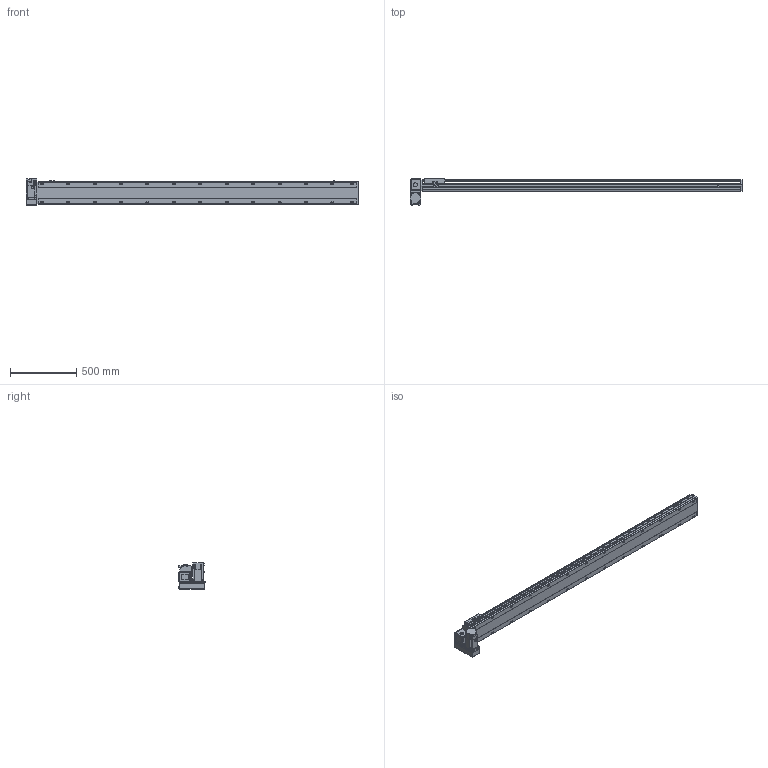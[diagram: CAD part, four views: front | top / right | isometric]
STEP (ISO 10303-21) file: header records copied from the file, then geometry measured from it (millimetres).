
FILE_DESCRIPTION(/* description */ ('STEP AP214'),/* implementation_level */ '2;1');
FILE_NAME(/* name */ 'PBS170-P40-S2150-LD-T75-C1-N(0)',/* time_stamp */ '2022-06-07T09:55:01+02:00',/* author */ ('License CC BY-ND 4.0'),/* organization */ ('CADENAS'),/* preprocessor_version */ 'ST-DEVELOPER v18.102',/* originating_system */ 'PARTsolutions',/* authorisation */ ' ');
FILE_SCHEMA (('AUTOMOTIVE_DESIGN {1 0 10303 214 3 1 1}'));
Length unit declared in the file: millimetre
Products named in the file (7): PBS170-P40-S2150-LD-T75-C1-N(0); PBS170_sensor; PBS170_plant; PBS170_sliser; T75-p1; PBS170T-LD_motors; PBS170-S2150()_body
Assembly tree (8 placements, depth 2):
  PBS170-P40-S2150-LD-T75-C1-N(0)
    PBS170_sensor  x3
    PBS170_plant
    PBS170_sliser
    T75-p1
    PBS170T-LD_motors
    PBS170-S2150()_body
Bounding box: 2513 x 201 x 197.3 mm (x, y, z)
Volume: 19185098.4 mm3; surface area: 2428560.4 mm2
Topology: 8 solids, 8 shells, 1162 faces, 3075 edges, 2004 vertices
Faces by surface type: plane 717, cylinder 379, cone 56, sphere 8, torus 2
Full cylindrical faces by diameter (mm): 3.242 x4, 4 x2, 4.4 x4, 4.5 x6, 4.917 x4, 6 x9, 6.647 x34, 7 x2, 7.5 x4, 8 x8, 8.5 x26, 10 x4, 10.5 x26, 11 x2, 30 x2, 40 x1, 70 x1
Entity records: 33408 total; most frequent: CARTESIAN_POINT 6273, DIRECTION 5650, ORIENTED_EDGE 5328, EDGE_CURVE 2664, AXIS2_PLACEMENT_3D 1987, VERTEX_POINT 1850, LINE 1676, VECTOR 1676
